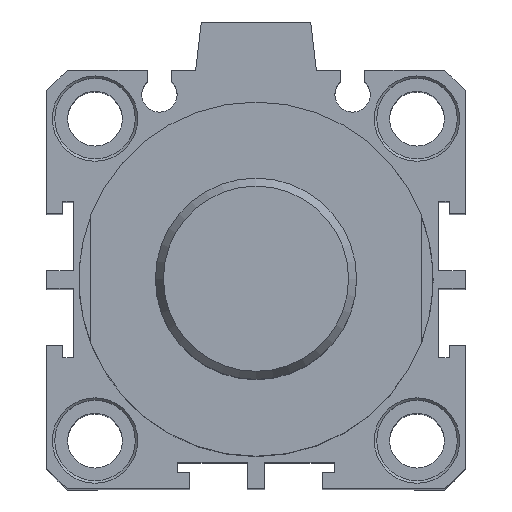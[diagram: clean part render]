
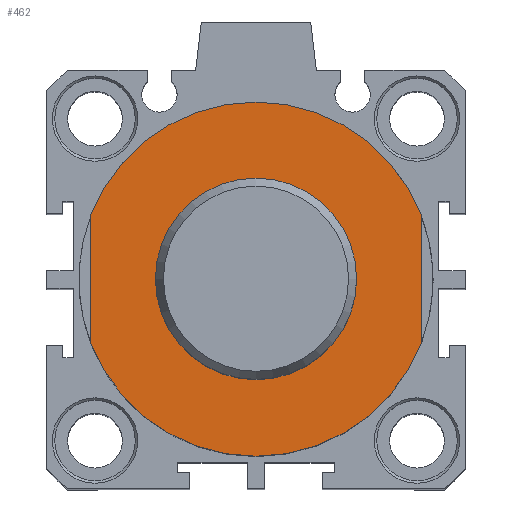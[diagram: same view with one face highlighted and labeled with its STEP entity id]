
A CAD part, top view. The second image highlights one B-rep face of the part: STEP entity #462.
In plain terms, the highlighted planar face has unit normal (0, 0, 1).
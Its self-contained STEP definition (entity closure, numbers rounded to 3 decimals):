
#77=CARTESIAN_POINT('',(0.598,14.055,110.2));
#78=VERTEX_POINT('',#77);
#79=CARTESIAN_POINT('',(0.598,1.555,110.2));
#80=DIRECTION('',(0.0,0.0,-1.0));
#81=DIRECTION('',(0.0,1.0,0.0));
#82=AXIS2_PLACEMENT_3D('',#79,#80,#81);
#83=CIRCLE('',#82,12.5);
#84=EDGE_CURVE('',#78,#78,#83,.T.);
#339=CARTESIAN_POINT('',(21.098,9.539,110.2));
#340=VERTEX_POINT('',#339);
#347=CARTESIAN_POINT('',(21.098,-6.429,110.2));
#348=VERTEX_POINT('',#347);
#349=CARTESIAN_POINT('',(21.098,-6.429,110.2));
#350=DIRECTION('',(0.0,1.0,0.0));
#351=VECTOR('',#350,15.969);
#352=LINE('',#349,#351);
#353=EDGE_CURVE('',#348,#340,#352,.T.);
#395=CARTESIAN_POINT('',(-19.902,-6.429,110.2));
#396=VERTEX_POINT('',#395);
#403=CARTESIAN_POINT('',(-19.902,9.539,110.2));
#404=VERTEX_POINT('',#403);
#405=CARTESIAN_POINT('',(-19.902,9.539,110.2));
#406=DIRECTION('',(0.0,-1.0,0.0));
#407=VECTOR('',#406,15.969);
#408=LINE('',#405,#407);
#409=EDGE_CURVE('',#404,#396,#408,.T.);
#436=CARTESIAN_POINT('',(0.598,18.805,110.2));
#437=DIRECTION('',(0.0,0.0,1.0));
#438=DIRECTION('',(1.0,0.0,0.0));
#439=AXIS2_PLACEMENT_3D('',#436,#437,#438);
#440=PLANE('',#439);
#441=ORIENTED_EDGE('',*,*,#353,.T.);
#442=CARTESIAN_POINT('',(0.598,1.555,110.2));
#443=DIRECTION('',(0.0,0.0,-1.0));
#444=DIRECTION('',(0.0,1.0,0.0));
#445=AXIS2_PLACEMENT_3D('',#442,#443,#444);
#446=CIRCLE('',#445,22.);
#447=EDGE_CURVE('',#404,#340,#446,.T.);
#448=ORIENTED_EDGE('',*,*,#447,.F.);
#449=ORIENTED_EDGE('',*,*,#409,.T.);
#450=CARTESIAN_POINT('',(0.598,1.555,110.2));
#451=DIRECTION('',(0.0,0.0,-1.0));
#452=DIRECTION('',(0.0,1.0,0.0));
#453=AXIS2_PLACEMENT_3D('',#450,#451,#452);
#454=CIRCLE('',#453,22.);
#455=EDGE_CURVE('',#348,#396,#454,.T.);
#456=ORIENTED_EDGE('',*,*,#455,.F.);
#457=EDGE_LOOP('',(#441,#448,#449,#456));
#458=FACE_OUTER_BOUND('',#457,.T.);
#459=ORIENTED_EDGE('',*,*,#84,.T.);
#460=EDGE_LOOP('',(#459));
#461=FACE_BOUND('',#460,.T.);
#462=ADVANCED_FACE('',(#458,#461),#440,.T.);
